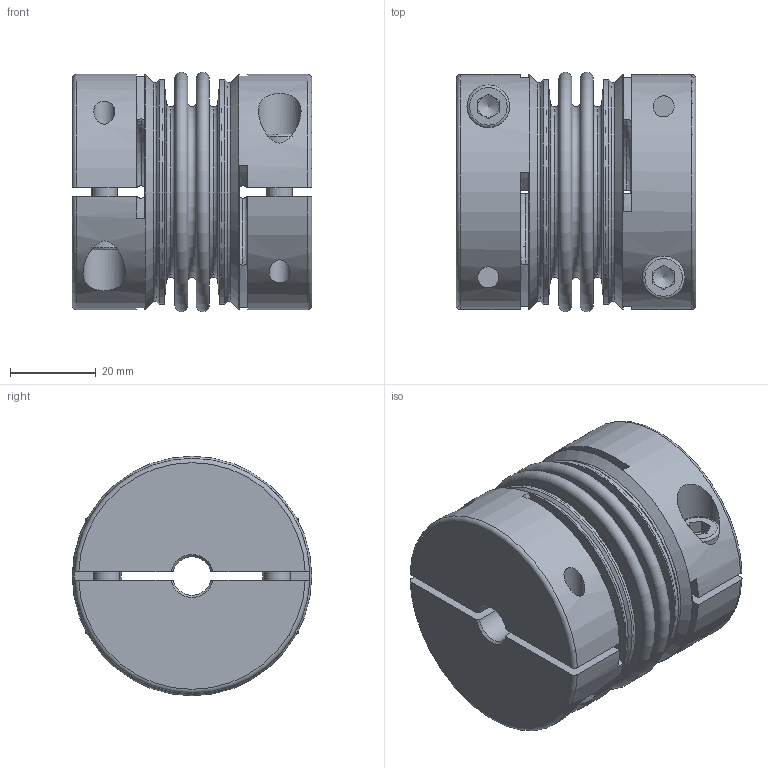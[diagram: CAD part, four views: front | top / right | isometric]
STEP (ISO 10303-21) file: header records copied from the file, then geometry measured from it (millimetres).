
FILE_DESCRIPTION(/* description */ ('Unknown','CAx-IF Rec.Pracs.---Representation and Presentation of Product Manufacturing Information (PMI)---4.0---2014-10-13','CAx-IF Rec.Pracs.---3D Tessellated Geometry---0.4---2014-09-14','2;1'),/* implementation_level */ '2;1');
FILE_NAME(/* name */ 'KG-HS 40 - 2W',/* time_stamp */ '2022-11-25T11:38:03+01:00',/* author */ ('Unknown'),/* organization */ ('Unknown'),/* preprocessor_version */ 'ST-DEVELOPER v18.102',/* originating_system */ 'Solid Edge',/* authorisation */ 'Unknown');
FILE_SCHEMA (('AP242_MANAGED_MODEL_BASED_3D_ENGINEERING_MIM_LF { 1 0 10303 442 1 1 4 }'));
Length unit declared in the file: millimetre
Products named in the file (1): 04824562
Bounding box: 56 x 56 x 56 mm (x, y, z)
Volume: 80191.8 mm3; surface area: 41171.1 mm2
Topology: 1 solids, 1 shells, 186 faces, 453 edges, 289 vertices
Faces by surface type: plane 94, cylinder 42, torus 30, cone 20
Full cylindrical faces by diameter (mm): 4.917 x8, 6 x4, 6.5 x4, 52.1 x2, 52.5 x2, 55 x2
Entity records: 6842 total; most frequent: CARTESIAN_POINT 1496, DIRECTION 852, ORIENTED_EDGE 740, EDGE_CURVE 370, AXIS2_PLACEMENT_3D 354, FACE_BOUND 276, EDGE_LOOP 272, VERTEX_POINT 266
